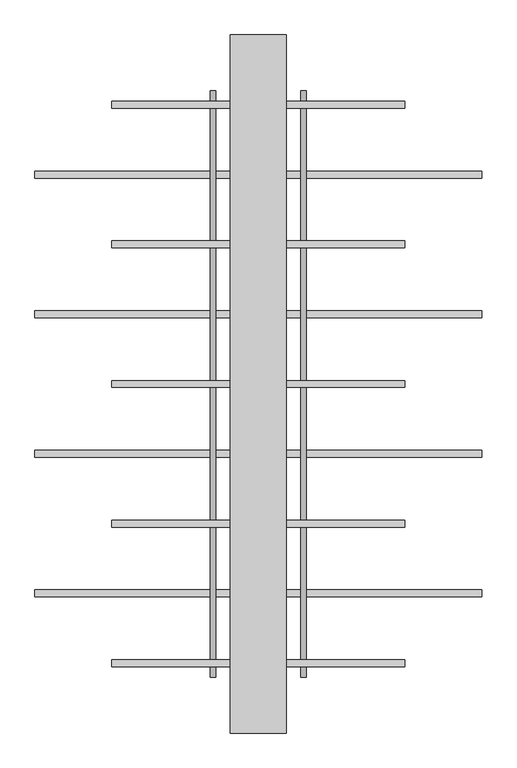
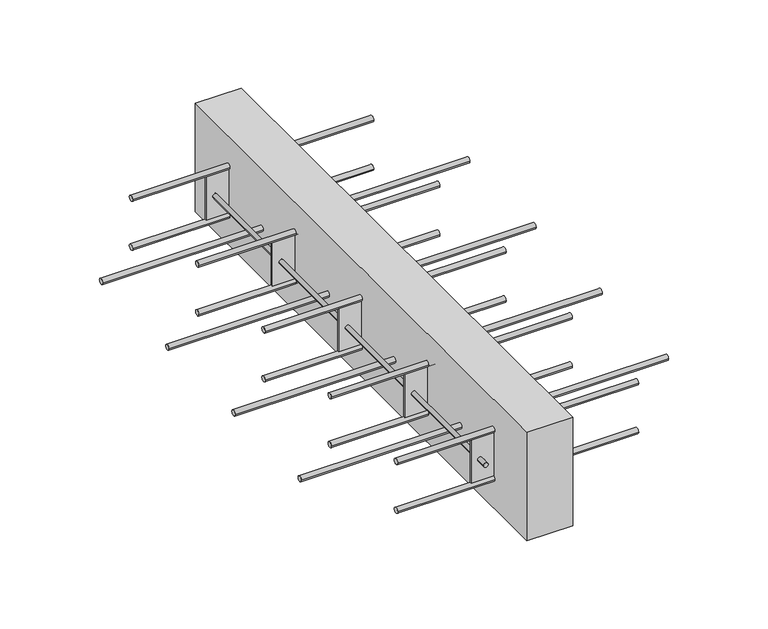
"""IFC4 building model written with IfcOpenShell, lengths in millimetres: fastener geometry, ACINOXplus_Typenreihe_Q : QD+ N."""

from ifc_helpers import new_model, si_unit, point, frame, frame_2d, origin, place, context, project, spatial, polyline, circle_curve, trimmed, segment, composite_curve, outline, extrude, source, transform, mapped, element, save


def fastener_01d9fbf7(model_context):
    return source(origin(), model_context, "Body", "SweptSolid", [
        extrude(outline(composite_curve([segment(trimmed(circle_curve(frame_2d((100.0, -109.0)), 5.0), [point((95.0, -109.0))], [point((105.0, -109.0))], False, "CARTESIAN"), True, "CONTINUOUS"), segment(trimmed(circle_curve(frame_2d((100.0, -109.0)), 5.0), [point((105.0, -109.0))], [point((95.0, -109.0))], False, "CARTESIAN"), True, "CONTINUOUS")], self_intersect=False)), frame((-320.0, 0.0, 0.0), z_axis=(1.0, 0.0, 0.0), x_axis=(0.0, 1.0, 0.0)), (0.0, 0.0, 1.0), 640.0),
        extrude(outline(composite_curve([segment(trimmed(circle_curve(frame_2d((300.0, -109.0)), 5.0), [point((295.0, -109.0))], [point((305.0, -109.0))], False, "CARTESIAN"), True, "CONTINUOUS"), segment(trimmed(circle_curve(frame_2d((300.0, -109.0)), 5.0), [point((305.0, -109.0))], [point((295.0, -109.0))], False, "CARTESIAN"), True, "CONTINUOUS")], self_intersect=False)), frame((-320.0, 0.0, 0.0), z_axis=(1.0, 0.0, 0.0), x_axis=(0.0, 1.0, 0.0)), (0.0, 0.0, 1.0), 640.0),
        extrude(outline(composite_curve([segment(trimmed(circle_curve(frame_2d((-100.0, -109.0)), 5.0), [point((-105.0, -109.0))], [point((-95.0, -109.0))], False, "CARTESIAN"), True, "CONTINUOUS"), segment(trimmed(circle_curve(frame_2d((-100.0, -109.0)), 5.0), [point((-95.0, -109.0))], [point((-105.0, -109.0))], False, "CARTESIAN"), True, "CONTINUOUS")], self_intersect=False)), frame((-320.0, 0.0, 0.0), z_axis=(1.0, 0.0, 0.0), x_axis=(0.0, 1.0, 0.0)), (0.0, 0.0, 1.0), 640.0),
        extrude(outline(composite_curve([segment(trimmed(circle_curve(frame_2d((-300.0, -109.0)), 5.0), [point((-305.0, -109.0))], [point((-295.0, -109.0))], False, "CARTESIAN"), True, "CONTINUOUS"), segment(trimmed(circle_curve(frame_2d((-300.0, -109.0)), 5.0), [point((-295.0, -109.0))], [point((-305.0, -109.0))], False, "CARTESIAN"), True, "CONTINUOUS")], self_intersect=False)), frame((-320.0, 0.0, 0.0), z_axis=(1.0, 0.0, 0.0), x_axis=(0.0, 1.0, 0.0)), (0.0, 0.0, 1.0), 640.0),
        extrude(outline(polyline([(40.0, 500.0), (40.0, -500.0), (-40.0, -500.0), (-40.0, 500.0), (40.0, 500.0)])), frame((0.0, 0.0, -200.0), z_axis=(0.0, 0.0, 1.0), x_axis=(1.0, 0.0, 0.0)), (0.0, 0.0, 1.0), 200.0),
        extrude(outline(polyline([(80.0, -198.5), (80.0, -201.5), (-80.0, -201.5), (-80.0, -198.5), (80.0, -198.5)])), frame((0.0, 0.0, -140.0), z_axis=(0.0, 0.0, 1.0), x_axis=(1.0, 0.0, 0.0)), (0.0, 0.0, 1.0), 80.0),
        extrude(outline(polyline([(80.0, 1.5), (80.0, -1.5), (-80.0, -1.5), (-80.0, 1.5), (80.0, 1.5)])), frame((0.0, 0.0, -140.0), z_axis=(0.0, 0.0, 1.0), x_axis=(1.0, 0.0, 0.0)), (0.0, 0.0, 1.0), 80.0),
        extrude(outline(polyline([(80.0, 201.5), (80.0, 198.5), (-80.0, 198.5), (-80.0, 201.5), (80.0, 201.5)])), frame((0.0, 0.0, -140.0), z_axis=(0.0, 0.0, 1.0), x_axis=(1.0, 0.0, 0.0)), (0.0, 0.0, 1.0), 80.0),
        extrude(outline(polyline([(80.0, -398.5), (80.0, -401.5), (-80.0, -401.5), (-80.0, -398.5), (80.0, -398.5)])), frame((0.0, 0.0, -140.0), z_axis=(0.0, 0.0, 1.0), x_axis=(1.0, 0.0, 0.0)), (0.0, 0.0, 1.0), 80.0),
        extrude(outline(polyline([(80.0, 401.5), (80.0, 398.5), (-80.0, 398.5), (-80.0, 401.5), (80.0, 401.5)])), frame((0.0, 0.0, -140.0), z_axis=(0.0, 0.0, 1.0), x_axis=(1.0, 0.0, 0.0)), (0.0, 0.0, 1.0), 80.0),
        extrude(outline(composite_curve([segment(trimmed(circle_curve(frame_2d((-100.0, -65.0)), 4.0), [point((-100.0, -69.0))], [point((-100.0, -61.0))], False, "CARTESIAN"), True, "CONTINUOUS"), segment(trimmed(circle_curve(frame_2d((-100.0, -65.0)), 4.0), [point((-100.0, -61.0))], [point((-100.0, -69.0))], False, "CARTESIAN"), True, "CONTINUOUS")], self_intersect=False)), frame((0.0, -398.5, 0.0), z_axis=(0.0, 1.0, 0.0), x_axis=(0.0, 0.0, 1.0)), (0.0, 0.0, 1.0), 597.0),
        extrude(outline(composite_curve([segment(trimmed(circle_curve(frame_2d((-100.0, -65.0)), 4.0), [point((-100.0, -69.0))], [point((-100.0, -61.0))], False, "CARTESIAN"), True, "CONTINUOUS"), segment(trimmed(circle_curve(frame_2d((-100.0, -65.0)), 4.0), [point((-100.0, -61.0))], [point((-100.0, -69.0))], False, "CARTESIAN"), True, "CONTINUOUS")], self_intersect=False)), frame((0.0, 401.5, 0.0), z_axis=(0.0, 1.0, 0.0), x_axis=(0.0, 0.0, 1.0)), (0.0, 0.0, 1.0), 18.5),
        extrude(outline(composite_curve([segment(trimmed(circle_curve(frame_2d((-100.0, -65.0)), 4.0), [point((-100.0, -61.0))], [point((-100.0, -69.0))], False, "CARTESIAN"), True, "CONTINUOUS"), segment(trimmed(circle_curve(frame_2d((-100.0, -65.0)), 4.0), [point((-100.0, -69.0))], [point((-100.0, -61.0))], False, "CARTESIAN"), True, "CONTINUOUS")], self_intersect=False)), frame((0.0, -420.0, 0.0), z_axis=(0.0, 1.0, 0.0), x_axis=(0.0, 0.0, 1.0)), (0.0, 0.0, 1.0), 18.5),
        extrude(outline(composite_curve([segment(trimmed(circle_curve(frame_2d((-100.0, -65.0)), 4.0), [point((-100.0, -69.0))], [point((-100.0, -61.0))], False, "CARTESIAN"), True, "CONTINUOUS"), segment(trimmed(circle_curve(frame_2d((-100.0, -65.0)), 4.0), [point((-100.0, -61.0))], [point((-100.0, -69.0))], False, "CARTESIAN"), True, "CONTINUOUS")], self_intersect=False)), frame((0.0, 201.5, 0.0), z_axis=(0.0, 1.0, 0.0), x_axis=(0.0, 0.0, 1.0)), (0.0, 0.0, 1.0), 197.0),
        extrude(outline(composite_curve([segment(trimmed(circle_curve(frame_2d((-100.0, 65.0)), 4.0), [point((-100.0, 61.0))], [point((-100.0, 69.0))], False, "CARTESIAN"), True, "CONTINUOUS"), segment(trimmed(circle_curve(frame_2d((-100.0, 65.0)), 4.0), [point((-100.0, 69.0))], [point((-100.0, 61.0))], False, "CARTESIAN"), True, "CONTINUOUS")], self_intersect=False)), frame((0.0, -398.5, 0.0), z_axis=(0.0, 1.0, 0.0), x_axis=(0.0, 0.0, 1.0)), (0.0, 0.0, 1.0), 597.0),
        extrude(outline(composite_curve([segment(trimmed(circle_curve(frame_2d((-100.0, 65.0)), 4.0), [point((-100.0, 61.0))], [point((-100.0, 69.0))], False, "CARTESIAN"), True, "CONTINUOUS"), segment(trimmed(circle_curve(frame_2d((-100.0, 65.0)), 4.0), [point((-100.0, 69.0))], [point((-100.0, 61.0))], False, "CARTESIAN"), True, "CONTINUOUS")], self_intersect=False)), frame((0.0, 401.5, 0.0), z_axis=(0.0, 1.0, 0.0), x_axis=(0.0, 0.0, 1.0)), (0.0, 0.0, 1.0), 18.5),
        extrude(outline(composite_curve([segment(trimmed(circle_curve(frame_2d((-100.0, 65.0)), 4.0), [point((-100.0, 69.0))], [point((-100.0, 61.0))], False, "CARTESIAN"), True, "CONTINUOUS"), segment(trimmed(circle_curve(frame_2d((-100.0, 65.0)), 4.0), [point((-100.0, 61.0))], [point((-100.0, 69.0))], False, "CARTESIAN"), True, "CONTINUOUS")], self_intersect=False)), frame((0.0, -420.0, 0.0), z_axis=(0.0, 1.0, 0.0), x_axis=(0.0, 0.0, 1.0)), (0.0, 0.0, 1.0), 18.5),
        extrude(outline(composite_curve([segment(trimmed(circle_curve(frame_2d((-100.0, 65.0)), 4.0), [point((-100.0, 61.0))], [point((-100.0, 69.0))], False, "CARTESIAN"), True, "CONTINUOUS"), segment(trimmed(circle_curve(frame_2d((-100.0, 65.0)), 4.0), [point((-100.0, 69.0))], [point((-100.0, 61.0))], False, "CARTESIAN"), True, "CONTINUOUS")], self_intersect=False)), frame((0.0, 201.5, 0.0), z_axis=(0.0, 1.0, 0.0), x_axis=(0.0, 0.0, 1.0)), (0.0, 0.0, 1.0), 197.0),
        extrude(outline(composite_curve([segment(trimmed(circle_curve(frame_2d((0.0, -145.0)), 5.0), [point((-5.0, -145.0))], [point((5.0, -145.0))], False, "CARTESIAN"), True, "CONTINUOUS"), segment(trimmed(circle_curve(frame_2d((0.0, -145.0)), 5.0), [point((5.0, -145.0))], [point((-5.0, -145.0))], False, "CARTESIAN"), True, "CONTINUOUS")], self_intersect=False)), frame((-210.0, 0.0, 0.0), z_axis=(1.0, 0.0, 0.0), x_axis=(0.0, 1.0, 0.0)), (0.0, 0.0, 1.0), 420.0),
        extrude(outline(composite_curve([segment(trimmed(circle_curve(frame_2d((200.0, -145.0)), 5.0), [point((195.0, -145.0))], [point((205.0, -145.0))], False, "CARTESIAN"), True, "CONTINUOUS"), segment(trimmed(circle_curve(frame_2d((200.0, -145.0)), 5.0), [point((205.0, -145.0))], [point((195.0, -145.0))], False, "CARTESIAN"), True, "CONTINUOUS")], self_intersect=False)), frame((-210.0, 0.0, 0.0), z_axis=(1.0, 0.0, 0.0), x_axis=(0.0, 1.0, 0.0)), (0.0, 0.0, 1.0), 420.0),
        extrude(outline(composite_curve([segment(trimmed(circle_curve(frame_2d((400.0, -145.0)), 5.0), [point((395.0, -145.0))], [point((405.0, -145.0))], False, "CARTESIAN"), True, "CONTINUOUS"), segment(trimmed(circle_curve(frame_2d((400.0, -145.0)), 5.0), [point((405.0, -145.0))], [point((395.0, -145.0))], False, "CARTESIAN"), True, "CONTINUOUS")], self_intersect=False)), frame((-210.0, 0.0, 0.0), z_axis=(1.0, 0.0, 0.0), x_axis=(0.0, 1.0, 0.0)), (0.0, 0.0, 1.0), 420.0),
        extrude(outline(composite_curve([segment(trimmed(circle_curve(frame_2d((-200.0, -145.0)), 5.0), [point((-205.0, -145.0))], [point((-195.0, -145.0))], False, "CARTESIAN"), True, "CONTINUOUS"), segment(trimmed(circle_curve(frame_2d((-200.0, -145.0)), 5.0), [point((-195.0, -145.0))], [point((-205.0, -145.0))], False, "CARTESIAN"), True, "CONTINUOUS")], self_intersect=False)), frame((-210.0, 0.0, 0.0), z_axis=(1.0, 0.0, 0.0), x_axis=(0.0, 1.0, 0.0)), (0.0, 0.0, 1.0), 420.0),
        extrude(outline(composite_curve([segment(trimmed(circle_curve(frame_2d((-400.0, -145.0)), 5.0), [point((-405.0, -145.0))], [point((-395.0, -145.0))], False, "CARTESIAN"), True, "CONTINUOUS"), segment(trimmed(circle_curve(frame_2d((-400.0, -145.0)), 5.0), [point((-395.0, -145.0))], [point((-405.0, -145.0))], False, "CARTESIAN"), True, "CONTINUOUS")], self_intersect=False)), frame((-210.0, 0.0, 0.0), z_axis=(1.0, 0.0, 0.0), x_axis=(0.0, 1.0, 0.0)), (0.0, 0.0, 1.0), 420.0),
        extrude(outline(composite_curve([segment(trimmed(circle_curve(frame_2d((0.0, -55.0)), 5.0), [point((-5.0, -55.0))], [point((5.0, -55.0))], False, "CARTESIAN"), True, "CONTINUOUS"), segment(trimmed(circle_curve(frame_2d((0.0, -55.0)), 5.0), [point((5.0, -55.0))], [point((-5.0, -55.0))], False, "CARTESIAN"), True, "CONTINUOUS")], self_intersect=False)), frame((-210.0, 0.0, 0.0), z_axis=(1.0, 0.0, 0.0), x_axis=(0.0, 1.0, 0.0)), (0.0, 0.0, 1.0), 420.0),
        extrude(outline(composite_curve([segment(trimmed(circle_curve(frame_2d((200.0, -55.0)), 5.0), [point((195.0, -55.0))], [point((205.0, -55.0))], False, "CARTESIAN"), True, "CONTINUOUS"), segment(trimmed(circle_curve(frame_2d((200.0, -55.0)), 5.0), [point((205.0, -55.0))], [point((195.0, -55.0))], False, "CARTESIAN"), True, "CONTINUOUS")], self_intersect=False)), frame((-210.0, 0.0, 0.0), z_axis=(1.0, 0.0, 0.0), x_axis=(0.0, 1.0, 0.0)), (0.0, 0.0, 1.0), 420.0),
        extrude(outline(composite_curve([segment(trimmed(circle_curve(frame_2d((400.0, -55.0)), 5.0), [point((395.0, -55.0))], [point((405.0, -55.0))], False, "CARTESIAN"), True, "CONTINUOUS"), segment(trimmed(circle_curve(frame_2d((400.0, -55.0)), 5.0), [point((405.0, -55.0))], [point((395.0, -55.0))], False, "CARTESIAN"), True, "CONTINUOUS")], self_intersect=False)), frame((-210.0, 0.0, 0.0), z_axis=(1.0, 0.0, 0.0), x_axis=(0.0, 1.0, 0.0)), (0.0, 0.0, 1.0), 420.0),
        extrude(outline(composite_curve([segment(trimmed(circle_curve(frame_2d((-200.0, -55.0)), 5.0), [point((-205.0, -55.0))], [point((-195.0, -55.0))], False, "CARTESIAN"), True, "CONTINUOUS"), segment(trimmed(circle_curve(frame_2d((-200.0, -55.0)), 5.0), [point((-195.0, -55.0))], [point((-205.0, -55.0))], False, "CARTESIAN"), True, "CONTINUOUS")], self_intersect=False)), frame((-210.0, 0.0, 0.0), z_axis=(1.0, 0.0, 0.0), x_axis=(0.0, 1.0, 0.0)), (0.0, 0.0, 1.0), 420.0),
        extrude(outline(composite_curve([segment(trimmed(circle_curve(frame_2d((-400.0, -55.0)), 5.0), [point((-405.0, -55.0))], [point((-395.0, -55.0))], False, "CARTESIAN"), True, "CONTINUOUS"), segment(trimmed(circle_curve(frame_2d((-400.0, -55.0)), 5.0), [point((-395.0, -55.0))], [point((-405.0, -55.0))], False, "CARTESIAN"), True, "CONTINUOUS")], self_intersect=False)), frame((-210.0, 0.0, 0.0), z_axis=(1.0, 0.0, 0.0), x_axis=(0.0, 1.0, 0.0)), (0.0, 0.0, 1.0), 420.0),
    ])


if __name__ == "__main__":
    model = new_model("IFC4")
    model_context = context("Model", 3, world=origin())
    ifc_project = project(units=[si_unit("LENGTHUNIT", "METRE", prefix="MILLI")], contexts=[model_context])
    site = spatial("IfcSite", under=ifc_project)
    building = spatial("IfcBuilding", under=site)
    placement = place(None, origin())
    fastener_shape = fastener_01d9fbf7(model_context)
    element("IfcFastener", 1, ObjectType="ACINOXplus_Typenreihe_Q : QD+ N", at=placement, inside=building, context=model_context, shape_type="MappedRepresentation", body=[
        mapped(fastener_shape, transform((0.0, 0.0, 0.0), x_axis=(1.0, 0.0, 0.0), y_axis=(0.0, 1.0, 0.0), z_axis=(0.0, 0.0, 1.0))),
    ])
    save(model, "model.ifc")
